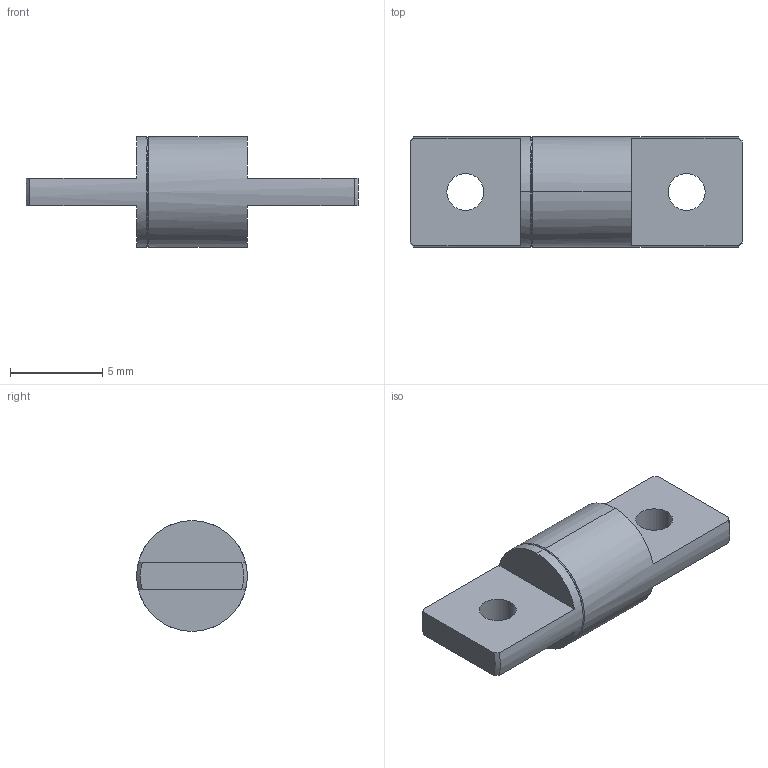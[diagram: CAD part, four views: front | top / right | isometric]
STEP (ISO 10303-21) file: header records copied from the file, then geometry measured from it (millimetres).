
FILE_DESCRIPTION (( 'STEP AP203' ), '1' );
FILE_NAME ('XG11-075-5.STEP', '2025-07-04T05:59:00', ( '微软用户' ), ( '微软中国' ), 'SwSTEP 2.0', 'SolidWorks 2024', '' );
FILE_SCHEMA (( 'CONFIG_CONTROL_DESIGN' ));
Length unit declared in the file: millimetre
Products named in the file (1): XG11-075-5
Bounding box: 18 x 6 x 6 mm (x, y, z)
Volume: 266.9 mm3; surface area: 351.9 mm2
Topology: 1 solids, 1 shells, 26 faces, 66 edges, 42 vertices
Faces by surface type: plane 10, cylinder 8, torus 4, cone 4
Entity records: 889 total; most frequent: CARTESIAN_POINT 159, DIRECTION 146, ORIENTED_EDGE 132, EDGE_CURVE 66, AXIS2_PLACEMENT_3D 61, VERTEX_POINT 42, CIRCLE 34, EDGE_LOOP 30
